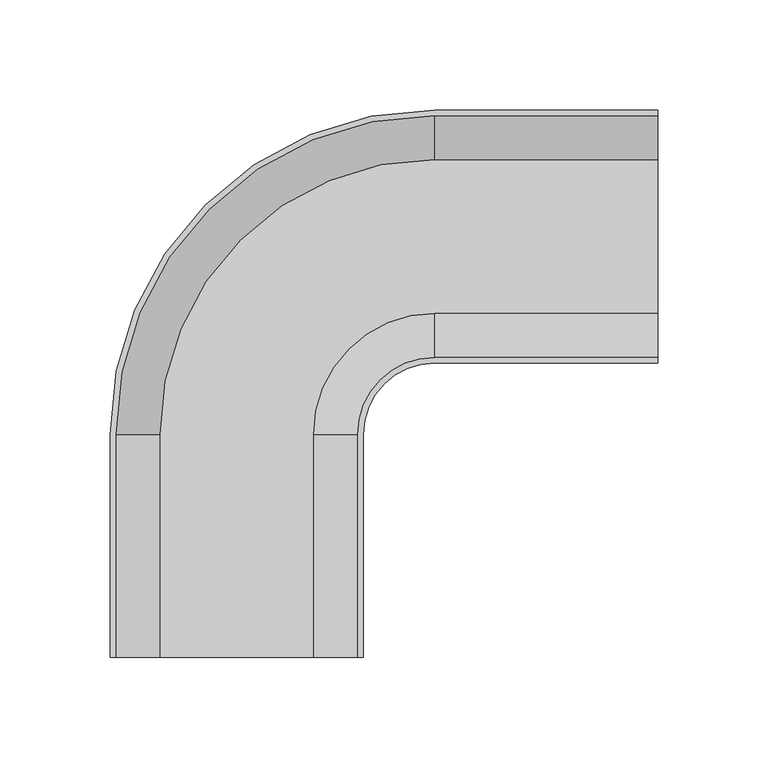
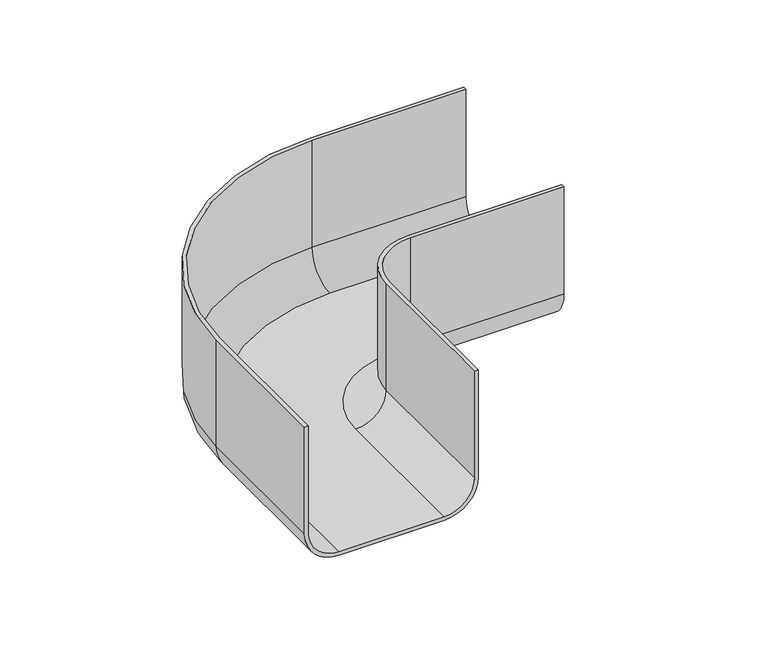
"""IFC4 building model written with IfcOpenShell, lengths in millimetres: cable carrier fitting geometry, CCT_Hyperline_FBTR_ELB90 Горизонтальный изгиб на 90° пластиковый : Горизонтальный изгиб на 90° пластиковый."""

from ifc_helpers import new_model, si_unit, point, frame, origin, place, context, project, spatial, polyline, circle_curve, ellipse_curve, trimmed, source, transform, mapped, element, save
from ifc_brep_helpers import plane_surface, cylinder_surface, revolved_surface, advanced_brep


def cable_carrier_fitting_df319fd5(model_context):
    return source(origin(), model_context, "Body", "AdvancedBrep", [
        advanced_brep(
        [(191.5, -57.54, -25.0), (191.5, -35.0, -47.54), (191.5, 35.0, -47.54), (191.5, 57.54, -25.0), (191.5, 57.54, 50.0), (191.5, 55.0, 50.0), (191.5, 55.0, -25.0), (191.5, 35.0, -45.0), (191.5, -35.0, -45.0), (191.5, -55.0, -25.0), (191.5, -55.0, 50.0), (191.5, -57.54, 50.0), (90.0, -57.54, -25.0), (90.0, -35.0, -47.54), (90.0, -35.0, -45.0), (90.0, -55.0, -25.0), (90.0, -55.0, 50.0), (55.0, -90.0, 50.0), (55.0, -191.5, 50.0), (57.54, -191.5, 50.0), (57.54, -90.0, 50.0), (90.0, -57.54, 50.0), (35.0, -90.0, -47.54), (57.54, -90.0, -25.0), (55.0, -90.0, -25.0), (35.0, -90.0, -45.0), (57.54, -191.5, -25.0), (55.0, -191.5, -25.0), (35.0, -191.5, -45.0), (-35.0, -191.5, -45.0), (-55.0, -191.5, -25.0), (-55.0, -191.5, 50.0), (-57.54, -191.5, 50.0), (-57.54, -191.5, -25.0), (-35.0, -191.5, -47.54), (35.0, -191.5, -47.54), (90.0, 35.0, -47.54), (90.0, 57.54, -25.0), (90.0, 57.54, 50.0), (-57.54, -90.0, 50.0), (-55.0, -90.0, 50.0), (90.0, 55.0, 50.0), (90.0, 55.0, -25.0), (90.0, 35.0, -45.0), (-57.54, -90.0, -25.0), (-35.0, -90.0, -47.54), (-55.0, -90.0, -25.0), (-35.0, -90.0, -45.0)],
        [
            (0, 1, circle_curve(frame((191.5, -35.0, -25.0), z_axis=(1.0, 0.0, 0.0), x_axis=(0.0, -1.0, 0.0)), 22.54)),
            (1, 2),
            (2, 3, circle_curve(frame((191.5, 35.0, -25.0), z_axis=(1.0, 0.0, 0.0), x_axis=(0.0, -1.0, 0.0)), 22.54)),
            (3, 4),
            (4, 5),
            (5, 6),
            (6, 7, circle_curve(frame((191.5, 35.0, -25.0), z_axis=(-1.0, 0.0, 0.0), x_axis=(0.0, -1.0, 0.0)), 20.0)),
            (7, 8),
            (8, 9, circle_curve(frame((191.5, -35.0, -25.0), z_axis=(-1.0, 0.0, 0.0), x_axis=(0.0, -1.0, 0.0)), 20.0)),
            (9, 10),
            (10, 11),
            (11, 0),
            (0, 12),
            (12, 13, circle_curve(frame((90.0, -35.0, -25.0), z_axis=(1.0, 0.0, 0.0), x_axis=(0.0, -1.0, 0.0)), 22.54)),
            (13, 1),
            (8, 14),
            (14, 15, circle_curve(frame((90.0, -35.0, -25.0), z_axis=(-1.0, 0.0, 0.0), x_axis=(0.0, -1.0, 0.0)), 20.0)),
            (15, 9),
            (15, 16),
            (16, 10),
            (16, 17, circle_curve(frame((90.0, -90.0, 50.0), z_axis=(0.0, 0.0, 1.0), x_axis=(0.0, 1.0, 0.0)), 35.0)),
            (17, 18),
            (18, 19),
            (19, 20),
            (20, 21, circle_curve(frame((90.0, -90.0, 50.0), z_axis=(0.0, 0.0, -1.0), x_axis=(0.0, 1.0, 0.0)), 32.46)),
            (21, 11),
            (21, 12),
            (22, 13, circle_curve(frame((90.0, -90.0, -47.54), z_axis=(0.0, 0.0, -1.0), x_axis=(0.0, 1.0, 0.0)), 55.0)),
            (12, 23, circle_curve(frame((90.0, -90.0, -25.0), z_axis=(0.0, 0.0, 1.0), x_axis=(0.0, 1.0, 0.0)), 32.46)),
            (23, 22, circle_curve(frame((35.0, -90.0, -25.0), z_axis=(0.0, 1.0, 0.0), x_axis=(1.0, 0.0, 0.0)), 22.54)),
            (24, 15, circle_curve(frame((90.0, -90.0, -25.0), z_axis=(0.0, 0.0, -1.0), x_axis=(0.0, 1.0, 0.0)), 35.0)),
            (14, 25, circle_curve(frame((90.0, -90.0, -45.0), z_axis=(0.0, 0.0, 1.0), x_axis=(0.0, 1.0, 0.0)), 55.0)),
            (25, 24, circle_curve(frame((35.0, -90.0, -25.0), z_axis=(0.0, -1.0, 0.0), x_axis=(1.0, 0.0, 0.0)), 20.0)),
            (24, 17),
            (20, 23),
            (26, 19),
            (18, 27),
            (27, 28, circle_curve(frame((35.0, -191.5, -25.0), z_axis=(0.0, 1.0, 0.0), x_axis=(1.0, 0.0, 0.0)), 20.0)),
            (28, 29),
            (29, 30, circle_curve(frame((-35.0, -191.5, -25.0), z_axis=(0.0, 1.0, 0.0), x_axis=(1.0, 0.0, 0.0)), 20.0)),
            (30, 31),
            (31, 32),
            (32, 33),
            (33, 34, circle_curve(frame((-35.0, -191.5, -25.0), z_axis=(0.0, -1.0, 0.0), x_axis=(1.0, 0.0, 0.0)), 22.54)),
            (34, 35),
            (35, 26, circle_curve(frame((35.0, -191.5, -25.0), z_axis=(0.0, -1.0, 0.0), x_axis=(1.0, 0.0, 0.0)), 22.54)),
            (23, 26),
            (35, 22),
            (25, 28),
            (27, 24),
            (2, 36),
            (36, 37, circle_curve(frame((90.0, 35.0, -25.0), z_axis=(1.0, 0.0, 0.0), x_axis=(0.0, -1.0, 0.0)), 22.54)),
            (37, 3),
            (37, 38),
            (38, 4),
            (38, 39, circle_curve(frame((90.0, -90.0, 50.0), z_axis=(0.0, 0.0, 1.0), x_axis=(0.0, 1.0, 0.0)), 147.54)),
            (39, 32),
            (31, 40),
            (40, 41, circle_curve(frame((90.0, -90.0, 50.0), z_axis=(0.0, 0.0, -1.0), x_axis=(0.0, 1.0, 0.0)), 145.0)),
            (41, 5),
            (41, 42),
            (42, 6),
            (42, 43, circle_curve(frame((90.0, 35.0, -25.0), z_axis=(-1.0, 0.0, 0.0), x_axis=(0.0, -1.0, 0.0)), 20.0)),
            (43, 7),
            (44, 37, circle_curve(frame((90.0, -90.0, -25.0), z_axis=(0.0, 0.0, -1.0), x_axis=(0.0, 1.0, 0.0)), 147.54)),
            (36, 45, circle_curve(frame((90.0, -90.0, -47.54), z_axis=(0.0, 0.0, 1.0), x_axis=(0.0, 1.0, 0.0)), 125.0)),
            (45, 44, circle_curve(frame((-35.0, -90.0, -25.0), z_axis=(0.0, 1.0, 0.0), x_axis=(1.0, 0.0, 0.0)), 22.54)),
            (44, 39),
            (46, 42, circle_curve(frame((90.0, -90.0, -25.0), z_axis=(0.0, 0.0, -1.0), x_axis=(0.0, 1.0, 0.0)), 145.0)),
            (40, 46),
            (47, 43, circle_curve(frame((90.0, -90.0, -45.0), z_axis=(0.0, 0.0, -1.0), x_axis=(0.0, 1.0, 0.0)), 125.0)),
            (46, 47, circle_curve(frame((-35.0, -90.0, -25.0), z_axis=(0.0, -1.0, 0.0), x_axis=(1.0, 0.0, 0.0)), 20.0)),
            (45, 34),
            (33, 44),
            (30, 46),
            (29, 47),
        ],
        [
            plane_surface(frame((191.5, -55.0, 0.0), z_axis=(1.0, 0.0, 0.0), x_axis=(0.0, 0.0, 1.0))),
            cylinder_surface(frame((191.5, -35.0, -25.0), z_axis=(1.0, 0.0, 0.0), x_axis=(0.0, -1.0, 0.0)), 22.54),
            revolved_surface(polyline([(90.0, -55.0, -25.0), (191.5, -55.0, -25.0)]), (191.5, -35.0, -25.0), (-1.0, 0.0, 0.0)),
            plane_surface(frame((191.5, -55.0, -25.0), z_axis=(0.0, 1.0, 0.0), x_axis=(-1.0, 0.0, 0.0))),
            plane_surface(frame((191.5, -55.0, 50.0), z_axis=(0.0, 0.0, 1.0), x_axis=(-1.0, 0.0, 0.0))),
            plane_surface(frame((191.5, -57.54, 50.0), z_axis=(0.0, -1.0, 0.0), x_axis=(-1.0, 0.0, 0.0))),
            revolved_surface(trimmed(ellipse_curve(frame((90.0, -35.0, -25.0), z_axis=(1.0, 0.0, 0.0), x_axis=(0.0, -1.0, 0.0)), 22.54, 22.54), [point((90.0, -57.54, -25.0))], [point((90.0, -35.0, -47.54))], True, "CARTESIAN"), (90.0, -90.0, 0.0), (0.0, 0.0, 1.0)),
            revolved_surface(trimmed(ellipse_curve(frame((90.0, -35.0, -25.0), z_axis=(-1.0, 0.0, 0.0), x_axis=(0.0, -1.0, 0.0)), 20.0, 20.0), [point((90.0, -35.0, -45.0))], [point((90.0, -55.0, -25.0))], True, "CARTESIAN"), (90.0, -90.0, 0.0), (0.0, 0.0, 1.0)),
            cylinder_surface(frame((90.0, -90.0, 0.0), z_axis=(0.0, 0.0, 1.0), x_axis=(0.0, 1.0, 0.0)), 35.0),
            revolved_surface(polyline([(90.0, -57.54, 50.0), (90.0, -57.54, -25.0)]), (90.0, -90.0, 0.0), (0.0, 0.0, 1.0)),
            plane_surface(frame((55.0, -191.5, 0.0), z_axis=(0.0, -1.0, 0.0), x_axis=(0.0, 0.0, 1.0))),
            cylinder_surface(frame((35.0, -90.0, -25.0), z_axis=(0.0, 1.0, 0.0), x_axis=(1.0, 0.0, 0.0)), 22.54),
            revolved_surface(polyline([(55.0, -191.5, -25.0), (55.0, -90.0, -25.0)]), (35.0, -90.0, -25.0), (0.0, -1.0, 0.0)),
            plane_surface(frame((55.0, -90.0, -25.0), z_axis=(-1.0, 0.0, 0.0), x_axis=(0.0, -1.0, 0.0))),
            plane_surface(frame((57.54, -90.0, 50.0), z_axis=(1.0, 0.0, 0.0), x_axis=(0.0, -1.0, 0.0))),
            cylinder_surface(frame((191.5, 35.0, -25.0), z_axis=(1.0, 0.0, 0.0), x_axis=(0.0, -1.0, 0.0)), 22.54),
            plane_surface(frame((191.5, 57.54, -25.0), z_axis=(0.0, 1.0, 0.0), x_axis=(-1.0, 0.0, 0.0))),
            plane_surface(frame((191.5, 57.54, 50.0), z_axis=(0.0, 0.0, 1.0), x_axis=(-1.0, 0.0, 0.0))),
            plane_surface(frame((191.5, 55.0, 50.0), z_axis=(0.0, -1.0, 0.0), x_axis=(-1.0, 0.0, 0.0))),
            revolved_surface(polyline([(90.0, 15.0, -25.0), (191.5, 15.0, -25.0)]), (191.5, 35.0, -25.0), (-1.0, 0.0, 0.0)),
            revolved_surface(trimmed(ellipse_curve(frame((90.0, 35.0, -25.0), z_axis=(1.0, 0.0, 0.0), x_axis=(0.0, -1.0, 0.0)), 22.54, 22.54), [point((90.0, 35.0, -47.54))], [point((90.0, 57.54, -25.0))], True, "CARTESIAN"), (90.0, -90.0, 0.0), (0.0, 0.0, 1.0)),
            cylinder_surface(frame((90.0, -90.0, 0.0), z_axis=(0.0, 0.0, 1.0), x_axis=(0.0, 1.0, 0.0)), 147.54),
            revolved_surface(polyline([(90.0, 55.0, 50.0), (90.0, 55.0, -25.0)]), (90.0, -90.0, 0.0), (0.0, 0.0, 1.0)),
            revolved_surface(trimmed(ellipse_curve(frame((90.0, 35.0, -25.0), z_axis=(-1.0, 0.0, 0.0), x_axis=(0.0, -1.0, 0.0)), 20.0, 20.0), [point((90.0, 55.0, -25.0))], [point((90.0, 35.0, -45.0))], True, "CARTESIAN"), (90.0, -90.0, 0.0), (0.0, 0.0, 1.0)),
            cylinder_surface(frame((-35.0, -90.0, -25.0), z_axis=(0.0, 1.0, 0.0), x_axis=(1.0, 0.0, 0.0)), 22.54),
            plane_surface(frame((-57.54, -90.0, -25.0), z_axis=(-1.0, 0.0, 0.0), x_axis=(0.0, -1.0, 0.0))),
            plane_surface(frame((-55.0, -90.0, 50.0), z_axis=(1.0, 0.0, 0.0), x_axis=(0.0, -1.0, 0.0))),
            revolved_surface(polyline([(-15.0, -191.5, -25.0), (-15.0, -90.0, -25.0)]), (-35.0, -90.0, -25.0), (0.0, -1.0, 0.0)),
            plane_surface(frame((191.5, -35.0, -47.54), z_axis=(0.0, 0.0, -1.0), x_axis=(-1.0, 0.0, 0.0))),
            plane_surface(frame((191.5, 35.0, -45.0), z_axis=(0.0, 0.0, 1.0), x_axis=(-1.0, 0.0, 0.0))),
        ],
        [
            (0, [[1, 2, 3, 4, 5, 6, 7, 8, 9, 10, 11, 12]]),
            (1, [[-1, 13, 14, 15]]),
            (2, [[-9, 16, 17, 18]]),
            (3, [[-10, -18, 19, 20]]),
            (4, [[-11, -20, 21, 22, 23, 24, 25, 26]]),
            (5, [[-12, -26, 27, -13]]),
            (6, [[28, -14, 29, 30]]),
            (7, [[31, -17, 32, 33]]),
            (8, [[-21, -19, -31, 34]]),
            (9, [[-29, -27, -25, 35]]),
            (10, [[36, -23, 37, 38, 39, 40, 41, 42, 43, 44, 45, 46]]),
            (11, [[-30, 47, -46, 48]]),
            (12, [[-33, 49, -38, 50]]),
            (13, [[-34, -50, -37, -22]]),
            (14, [[-35, -24, -36, -47]]),
            (15, [[-3, 51, 52, 53]]),
            (16, [[-4, -53, 54, 55]]),
            (17, [[-5, -55, 56, 57, -42, 58, 59, 60]]),
            (18, [[-6, -60, 61, 62]]),
            (19, [[-7, -62, 63, 64]]),
            (20, [[65, -52, 66, 67]]),
            (21, [[-56, -54, -65, 68]]),
            (22, [[69, -61, -59, 70]]),
            (23, [[71, -63, -69, 72]]),
            (24, [[-67, 73, -44, 74]]),
            (25, [[-68, -74, -43, -57]]),
            (26, [[-70, -58, -41, 75]]),
            (27, [[-72, -75, -40, 76]]),
            (28, [[-2, -15, -28, -48, -45, -73, -66, -51]]),
            (29, [[-8, -64, -71, -76, -39, -49, -32, -16]]),
        ],
    ),
    ])


if __name__ == "__main__":
    model = new_model("IFC4")
    model_context = context("Model", 3, world=origin())
    ifc_project = project(units=[si_unit("LENGTHUNIT", "METRE", prefix="MILLI")], contexts=[model_context])
    site = spatial("IfcSite", under=ifc_project)
    building = spatial("IfcBuilding", under=site)
    placement = place(None, origin())
    cable_carrier_fitting_shape = cable_carrier_fitting_df319fd5(model_context)
    element("IfcCableCarrierFitting", 1, ObjectType="CCT_Hyperline_FBTR_ELB90 Горизонтальный изгиб на 90° пластиковый : Горизонтальный изгиб на 90° пластиковый", at=placement, inside=building, context=model_context, shape_type="MappedRepresentation", body=[
        mapped(cable_carrier_fitting_shape, transform((0.0, 0.0, 0.0), x_axis=(1.0, 0.0, 0.0), y_axis=(0.0, 1.0, 0.0), z_axis=(0.0, 0.0, 1.0))),
    ])
    save(model, "model.ifc")
